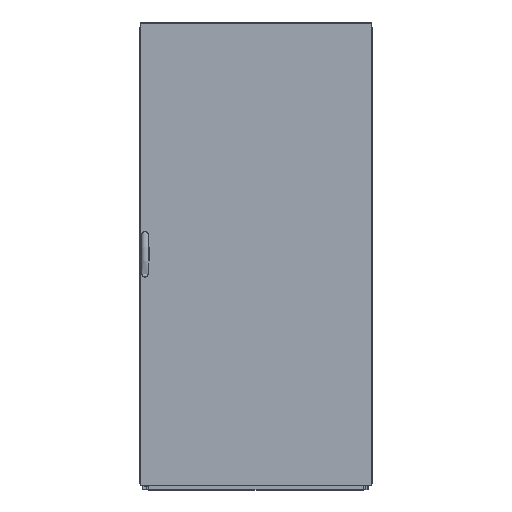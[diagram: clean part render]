
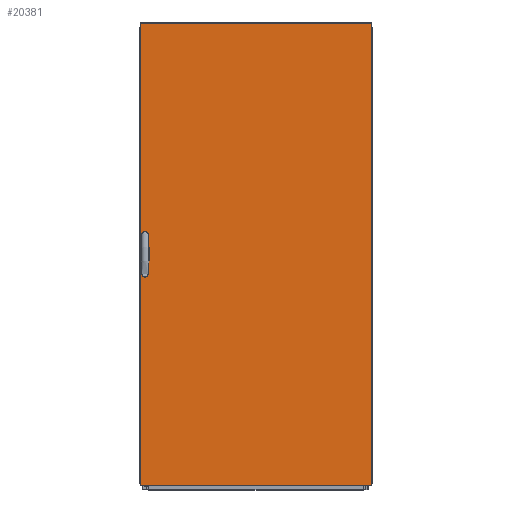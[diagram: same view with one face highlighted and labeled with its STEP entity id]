
A CAD part, top view. The second image highlights one B-rep face of the part: STEP entity #20381.
In plain terms, the highlighted planar face has unit normal (0, 0, 1) as drawn and (0, 0, -1) by its records, which use the part's own axes.
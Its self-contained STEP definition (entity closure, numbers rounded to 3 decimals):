
#307=CIRCLE('',#22535,2.6);
#308=CIRCLE('',#22536,2.6);
#3273=ORIENTED_EDGE('',*,*,#7670,.T.);
#3274=ORIENTED_EDGE('',*,*,#7671,.T.);
#3275=ORIENTED_EDGE('',*,*,#7672,.T.);
#3276=ORIENTED_EDGE('',*,*,#7673,.T.);
#3277=ORIENTED_EDGE('',*,*,#7674,.T.);
#3278=ORIENTED_EDGE('',*,*,#7675,.T.);
#3279=ORIENTED_EDGE('',*,*,#7676,.T.);
#3280=ORIENTED_EDGE('',*,*,#7677,.T.);
#3281=ORIENTED_EDGE('',*,*,#7678,.T.);
#3282=ORIENTED_EDGE('',*,*,#7679,.T.);
#3283=ORIENTED_EDGE('',*,*,#7680,.T.);
#3284=ORIENTED_EDGE('',*,*,#7681,.T.);
#3285=ORIENTED_EDGE('',*,*,#7682,.T.);
#3286=ORIENTED_EDGE('',*,*,#7683,.T.);
#3287=ORIENTED_EDGE('',*,*,#7684,.T.);
#3288=ORIENTED_EDGE('',*,*,#7685,.T.);
#3289=ORIENTED_EDGE('',*,*,#7686,.T.);
#3290=ORIENTED_EDGE('',*,*,#7687,.F.);
#3291=ORIENTED_EDGE('',*,*,#7688,.F.);
#3292=ORIENTED_EDGE('',*,*,#7689,.T.);
#3293=ORIENTED_EDGE('',*,*,#7690,.T.);
#3294=ORIENTED_EDGE('',*,*,#7691,.T.);
#7670=EDGE_CURVE('',#10099,#10100,#12317,.T.);
#7671=EDGE_CURVE('',#10100,#10101,#12318,.T.);
#7672=EDGE_CURVE('',#10101,#10102,#12319,.T.);
#7673=EDGE_CURVE('',#10102,#10103,#12320,.T.);
#7674=EDGE_CURVE('',#10103,#10104,#12321,.T.);
#7675=EDGE_CURVE('',#10104,#10105,#12322,.T.);
#7676=EDGE_CURVE('',#10105,#10106,#12323,.T.);
#7677=EDGE_CURVE('',#10106,#10107,#12324,.T.);
#7678=EDGE_CURVE('',#10107,#10108,#12325,.T.);
#7679=EDGE_CURVE('',#10108,#10109,#12326,.T.);
#7680=EDGE_CURVE('',#10109,#10110,#12327,.T.);
#7681=EDGE_CURVE('',#10110,#10111,#12328,.T.);
#7682=EDGE_CURVE('',#10111,#10112,#12329,.T.);
#7683=EDGE_CURVE('',#10112,#10113,#12330,.T.);
#7684=EDGE_CURVE('',#10113,#10114,#12331,.T.);
#7685=EDGE_CURVE('',#10114,#10099,#12332,.T.);
#7686=EDGE_CURVE('',#10115,#10116,#12333,.T.);
#7687=EDGE_CURVE('',#10117,#10116,#12334,.T.);
#7688=EDGE_CURVE('',#10118,#10117,#12335,.T.);
#7689=EDGE_CURVE('',#10118,#10115,#12336,.T.);
#7690=EDGE_CURVE('',#10119,#10119,#307,.T.);
#7691=EDGE_CURVE('',#10120,#10120,#308,.T.);
#10099=VERTEX_POINT('',#31535);
#10100=VERTEX_POINT('',#31536);
#10101=VERTEX_POINT('',#31538);
#10102=VERTEX_POINT('',#31540);
#10103=VERTEX_POINT('',#31542);
#10104=VERTEX_POINT('',#31544);
#10105=VERTEX_POINT('',#31546);
#10106=VERTEX_POINT('',#31548);
#10107=VERTEX_POINT('',#31550);
#10108=VERTEX_POINT('',#31552);
#10109=VERTEX_POINT('',#31554);
#10110=VERTEX_POINT('',#31556);
#10111=VERTEX_POINT('',#31558);
#10112=VERTEX_POINT('',#31560);
#10113=VERTEX_POINT('',#31562);
#10114=VERTEX_POINT('',#31564);
#10115=VERTEX_POINT('',#31567);
#10116=VERTEX_POINT('',#31568);
#10117=VERTEX_POINT('',#31570);
#10118=VERTEX_POINT('',#31572);
#10119=VERTEX_POINT('',#31575);
#10120=VERTEX_POINT('',#31577);
#12317=LINE('',#31534,#14871);
#12318=LINE('',#31537,#14872);
#12319=LINE('',#31539,#14873);
#12320=LINE('',#31541,#14874);
#12321=LINE('',#31543,#14875);
#12322=LINE('',#31545,#14876);
#12323=LINE('',#31547,#14877);
#12324=LINE('',#31549,#14878);
#12325=LINE('',#31551,#14879);
#12326=LINE('',#31553,#14880);
#12327=LINE('',#31555,#14881);
#12328=LINE('',#31557,#14882);
#12329=LINE('',#31559,#14883);
#12330=LINE('',#31561,#14884);
#12331=LINE('',#31563,#14885);
#12332=LINE('',#31565,#14886);
#12333=LINE('',#31566,#14887);
#12334=LINE('',#31569,#14888);
#12335=LINE('',#31571,#14889);
#12336=LINE('',#31573,#14890);
#14871=VECTOR('',#25815,1000.);
#14872=VECTOR('',#25816,1000.);
#14873=VECTOR('',#25817,1000.);
#14874=VECTOR('',#25818,1000.);
#14875=VECTOR('',#25819,1000.);
#14876=VECTOR('',#25820,1000.);
#14877=VECTOR('',#25821,1000.);
#14878=VECTOR('',#25822,1000.);
#14879=VECTOR('',#25823,1000.);
#14880=VECTOR('',#25824,1000.);
#14881=VECTOR('',#25825,1000.);
#14882=VECTOR('',#25826,1000.);
#14883=VECTOR('',#25827,1000.);
#14884=VECTOR('',#25828,1000.);
#14885=VECTOR('',#25829,1000.);
#14886=VECTOR('',#25830,1000.);
#14887=VECTOR('',#25831,1000.);
#14888=VECTOR('',#25832,1000.);
#14889=VECTOR('',#25833,1000.);
#14890=VECTOR('',#25834,1000.);
#16896=EDGE_LOOP('',(#3273,#3274,#3275,#3276,#3277,#3278,#3279,#3280,#3281,
#3282,#3283,#3284,#3285,#3286,#3287,#3288));
#16897=EDGE_LOOP('',(#3289,#3290,#3291,#3292));
#16898=EDGE_LOOP('',(#3293));
#16899=EDGE_LOOP('',(#3294));
#18230=FACE_BOUND('',#16896,.T.);
#18231=FACE_BOUND('',#16897,.T.);
#18232=FACE_BOUND('',#16898,.T.);
#18233=FACE_BOUND('',#16899,.T.);
#19356=PLANE('',#22534);
#20381=ADVANCED_FACE('',(#18230,#18231,#18232,#18233),#19356,.F.);
#22534=AXIS2_PLACEMENT_3D('',#31533,#25813,#25814);
#22535=AXIS2_PLACEMENT_3D('',#31574,#25835,#25836);
#22536=AXIS2_PLACEMENT_3D('',#31576,#25837,#25838);
#25813=DIRECTION('',(0.,0.,1.));
#25814=DIRECTION('',(1.,0.,0.));
#25815=DIRECTION('',(0.,-1.,0.));
#25816=DIRECTION('',(0.342,-0.94,0.));
#25817=DIRECTION('',(1.,0.,0.));
#25818=DIRECTION('',(0.,1.,0.));
#25819=DIRECTION('',(1.,0.,0.));
#25820=DIRECTION('',(0.,-1.,0.));
#25821=DIRECTION('',(1.,0.,0.));
#25822=DIRECTION('',(0.342,0.94,0.));
#25823=DIRECTION('',(0.,1.,0.));
#25824=DIRECTION('',(-0.342,0.94,0.));
#25825=DIRECTION('',(-1.,0.,0.));
#25826=DIRECTION('',(0.,-1.,0.));
#25827=DIRECTION('',(-1.,0.,0.));
#25828=DIRECTION('',(0.,1.,0.));
#25829=DIRECTION('',(-1.,0.,0.));
#25830=DIRECTION('',(-0.342,-0.94,0.));
#25831=DIRECTION('',(-1.,0.,0.));
#25832=DIRECTION('',(0.,-1.,0.));
#25833=DIRECTION('',(-1.,0.,0.));
#25834=DIRECTION('',(0.,-1.,0.));
#25835=DIRECTION('',(0.,0.,1.));
#25836=DIRECTION('',(1.,0.,0.));
#25837=DIRECTION('',(0.,0.,1.));
#25838=DIRECTION('',(1.,0.,0.));
#31533=CARTESIAN_POINT('',(496.5,1982.,-16.8));
#31534=CARTESIAN_POINT('',(462.95,1056.256,-16.8));
#31535=CARTESIAN_POINT('',(462.95,1056.256,-16.8));
#31536=CARTESIAN_POINT('',(462.95,925.744,-16.8));
#31537=CARTESIAN_POINT('',(462.95,925.744,-16.8));
#31538=CARTESIAN_POINT('',(464.95,920.25,-16.8));
#31539=CARTESIAN_POINT('',(464.95,920.25,-16.8));
#31540=CARTESIAN_POINT('',(470.2,920.25,-16.8));
#31541=CARTESIAN_POINT('',(470.2,920.25,-16.8));
#31542=CARTESIAN_POINT('',(470.2,928.,-16.8));
#31543=CARTESIAN_POINT('',(470.2,928.,-16.8));
#31544=CARTESIAN_POINT('',(481.2,928.,-16.8));
#31545=CARTESIAN_POINT('',(481.2,928.,-16.8));
#31546=CARTESIAN_POINT('',(481.2,920.25,-16.8));
#31547=CARTESIAN_POINT('',(481.2,920.25,-16.8));
#31548=CARTESIAN_POINT('',(486.45,920.25,-16.8));
#31549=CARTESIAN_POINT('',(486.45,920.25,-16.8));
#31550=CARTESIAN_POINT('',(488.45,925.744,-16.8));
#31551=CARTESIAN_POINT('',(488.45,925.744,-16.8));
#31552=CARTESIAN_POINT('',(488.45,1056.256,-16.8));
#31553=CARTESIAN_POINT('',(488.45,1056.256,-16.8));
#31554=CARTESIAN_POINT('',(486.45,1061.75,-16.8));
#31555=CARTESIAN_POINT('',(486.45,1061.75,-16.8));
#31556=CARTESIAN_POINT('',(481.2,1061.75,-16.8));
#31557=CARTESIAN_POINT('',(481.2,1061.75,-16.8));
#31558=CARTESIAN_POINT('',(481.2,1054.,-16.8));
#31559=CARTESIAN_POINT('',(481.2,1054.,-16.8));
#31560=CARTESIAN_POINT('',(470.2,1054.,-16.8));
#31561=CARTESIAN_POINT('',(470.2,1054.,-16.8));
#31562=CARTESIAN_POINT('',(470.2,1061.75,-16.8));
#31563=CARTESIAN_POINT('',(470.2,1061.75,-16.8));
#31564=CARTESIAN_POINT('',(464.95,1061.75,-16.8));
#31565=CARTESIAN_POINT('',(464.95,1061.75,-16.8));
#31566=CARTESIAN_POINT('',(496.5,0.,-16.8));
#31567=CARTESIAN_POINT('',(496.5,0.,-16.8));
#31568=CARTESIAN_POINT('',(-496.5,0.,-16.8));
#31569=CARTESIAN_POINT('',(-496.5,1982.,-16.8));
#31570=CARTESIAN_POINT('',(-496.5,1982.,-16.8));
#31571=CARTESIAN_POINT('',(496.5,1982.,-16.8));
#31572=CARTESIAN_POINT('',(496.5,1982.,-16.8));
#31573=CARTESIAN_POINT('',(496.5,1982.,-16.8));
#31574=CARTESIAN_POINT('',(475.7,1061.,-16.8));
#31575=CARTESIAN_POINT('',(478.3,1061.,-16.8));
#31576=CARTESIAN_POINT('',(475.7,921.,-16.8));
#31577=CARTESIAN_POINT('',(478.3,921.,-16.8));
